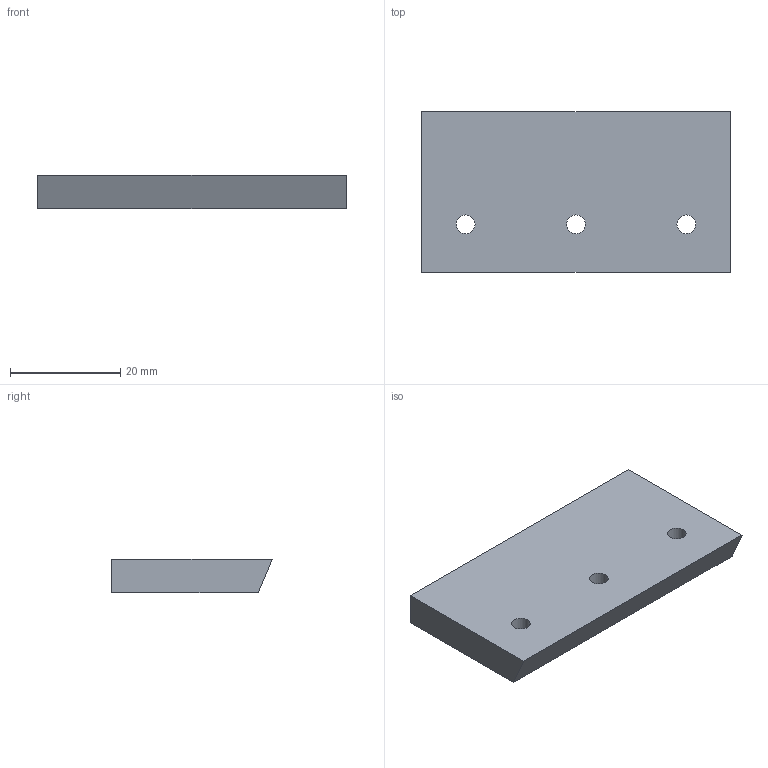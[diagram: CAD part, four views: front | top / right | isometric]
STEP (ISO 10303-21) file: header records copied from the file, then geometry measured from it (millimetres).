
FILE_DESCRIPTION(('Open CASCADE Model'),'2;1');
FILE_NAME('Open CASCADE Shape Model','2026-10-17T23:02:58',('Author'),( 'Open CASCADE'),'Open CASCADE STEP processor 7.9','Open CASCADE 7.9' ,'Unknown');
FILE_SCHEMA(('AUTOMOTIVE_DESIGN { 1 0 10303 214 1 1 1 1 }'));
Length unit declared in the file: millimetre
Products named in the file (1): Open CASCADE STEP translator 7.9 18
Bounding box: 56 x 29.1 x 6 mm (x, y, z)
Volume: 9036.4 mm3; surface area: 4359.7 mm2
Topology: 1 solids, 1 shells, 30 faces, 75 edges, 50 vertices
Faces by surface type: plane 27, cylinder 3
Full cylindrical faces by diameter (mm): 3.4 x3
Entity records: 1891 total; most frequent: CARTESIAN_POINT 324, DIRECTION 290, LINE 213, VECTOR 213, ORIENTED_EDGE 150, PCURVE 150, DEFINITIONAL_REPRESENTATION 150, EDGE_CURVE 75
